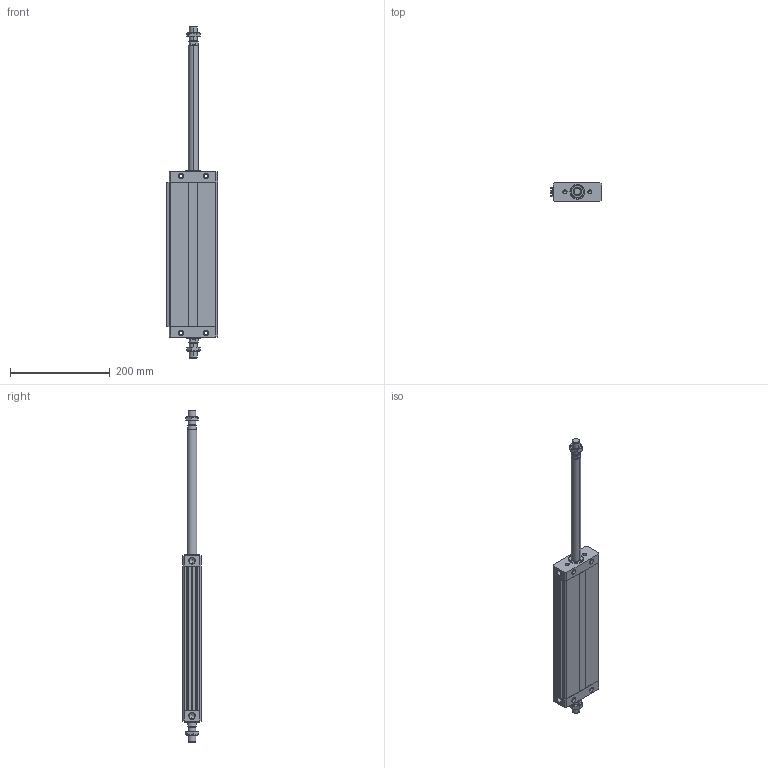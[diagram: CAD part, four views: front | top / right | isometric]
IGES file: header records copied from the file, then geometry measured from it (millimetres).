
Global section: file name: No Iges File Name specified; native system: Autodesk Inventor 2011; preprocessor: AutoDesk Inventor Iges Exporter R2011; author: airolcr1; date: 20101213.153412; units: millimetre
Bounding box: 102.5 x 38 x 666 mm (x, y, z)
Volume: 855495.9 mm3; surface area: 235912.2 mm2
Topology: 6 solids, 6 shells, 280 faces, 664 edges, 396 vertices
Faces by surface type: bspline 114, plane 98, cone 36, cylinder 18, revolution 14
